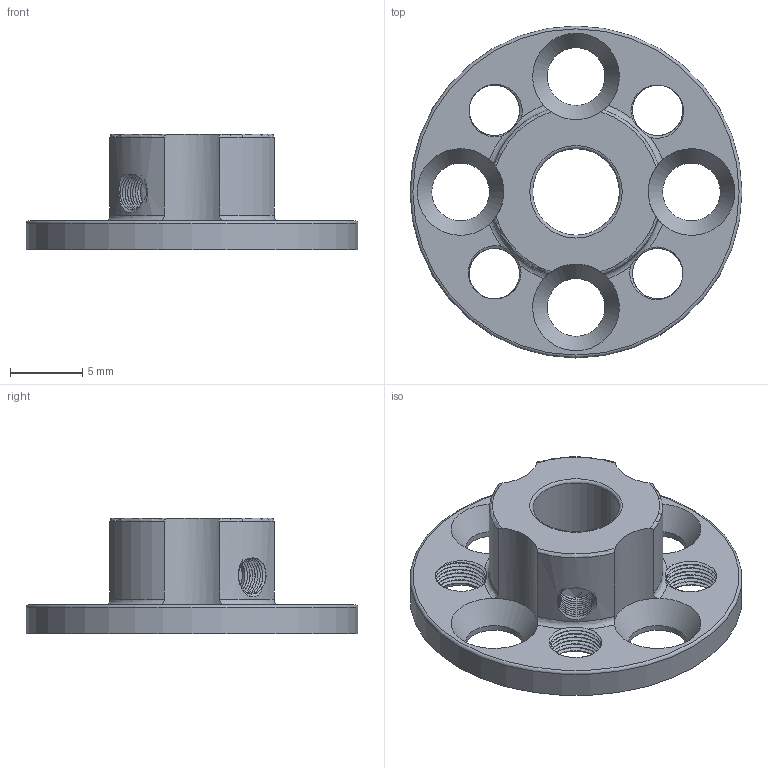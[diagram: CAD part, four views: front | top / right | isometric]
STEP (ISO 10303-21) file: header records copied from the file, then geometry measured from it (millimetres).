
FILE_DESCRIPTION( ('This file contains a STEP AP42 implementation' ,'as created by ZW3D STEP Interface translator.') ,'2;1' );
FILE_NAME( 'BL-6mmAdapter.stp' ,'23 8 5. 93640', (''), ('ZWCAD Software Co.'), 'Version 1.0', 'ZW3D to STEP translator', '' );
FILE_SCHEMA(('AUTOMOTIVE_DESIGN { 1 0 10303 214 1 1 1 1 }'));
Length unit declared in the file: millimetre
Products named in the file (2): 0; BL-6mmAdapter
Bounding box: 23 x 23 x 8 mm (x, y, z)
Surface area: 1393.9 mm2
Topology: 1 solids, 2 shells, 99 faces, 300 edges, 195 vertices
Faces by surface type: cylinder 64, bspline 22, torus 10, plane 3
Full cylindrical faces by diameter (mm): 2.5 x13, 3.5 x25, 4 x4, 6 x1, 23 x1
Entity records: 6942 total; most frequent: CARTESIAN_POINT 4614, ORIENTED_EDGE 584, DIRECTION 329, EDGE_CURVE 291, VERTEX_POINT 188, AXIS2_PLACEMENT_3D 135, EDGE_LOOP 112, FACE_OUTER_BOUND 99
